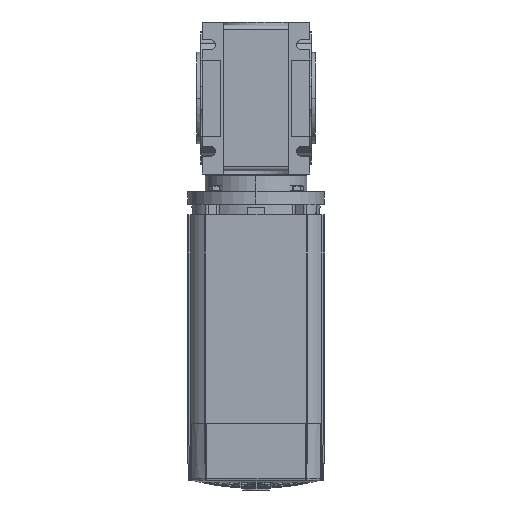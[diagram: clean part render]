
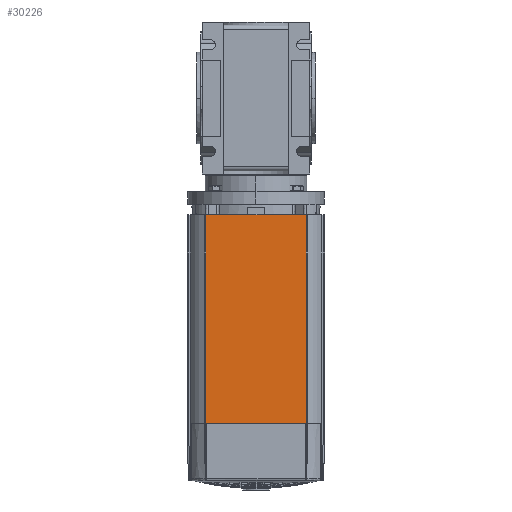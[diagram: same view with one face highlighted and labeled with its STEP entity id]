
A CAD part, front view. The second image highlights one B-rep face of the part: STEP entity #30226.
In plain terms, the highlighted planar face has unit normal (0, -1, 0).
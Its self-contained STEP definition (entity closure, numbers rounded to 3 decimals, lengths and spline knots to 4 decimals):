
#30164 = VERTEX_POINT ( 'NONE', #44474 ) ;
#30205 = ORIENTED_EDGE ( 'NONE', *, *, #30206, .T. ) ;
#30206 = EDGE_CURVE ( 'NONE', #30164, #30207, #44524, .T. ) ;
#30207 = VERTEX_POINT ( 'NONE', #44520 ) ;
#30208 = ORIENTED_EDGE ( 'NONE', *, *, #30209, .T. ) ;
#30209 = EDGE_CURVE ( 'NONE', #30207, #30230, #44519, .T. ) ;
#30221 = EDGE_CURVE ( 'NONE', #30222, #30164, #44556, .T. ) ;
#30222 = VERTEX_POINT ( 'NONE', #44552 ) ;
#30226 = ADVANCED_FACE ( 'NONE', ( #44551 ), #44606, .T. ) ;
#30227 = EDGE_LOOP ( 'NONE', ( #30228, #30231, #30205, #30208 ) ) ;
#30228 = ORIENTED_EDGE ( 'NONE', *, *, #30229, .F. ) ;
#30229 = EDGE_CURVE ( 'NONE', #30222, #30230, #44601, .T. ) ;
#30230 = VERTEX_POINT ( 'NONE', #44597 ) ;
#30231 = ORIENTED_EDGE ( 'NONE', *, *, #30221, .T. ) ;
#44474 = CARTESIAN_POINT ( 'NONE',  ( -1.3051, -1.7764, -1.291 ) ) ;
#44516 = DIRECTION ( 'NONE',  ( 0., 0., 1. ) ) ;
#44517 = VECTOR ( 'NONE', #44516, 39.3701 ) ;
#44518 = CARTESIAN_POINT ( 'NONE',  ( 1.3049, -1.7766, -1.291 ) ) ;
#44519 = LINE ( 'NONE', #44518, #44517 ) ;
#44520 = CARTESIAN_POINT ( 'NONE',  ( 1.3049, -1.7766, -1.291 ) ) ;
#44521 = DIRECTION ( 'NONE',  ( 1., 0., 0. ) ) ;
#44522 = VECTOR ( 'NONE', #44521, 39.3701 ) ;
#44523 = CARTESIAN_POINT ( 'NONE',  ( -1.3251, -1.7764, -1.291 ) ) ;
#44524 = LINE ( 'NONE', #44523, #44522 ) ;
#44551 = FACE_OUTER_BOUND ( 'NONE', #30227, .T. ) ;
#44552 = CARTESIAN_POINT ( 'NONE',  ( -1.3051, -1.7764, 4.104 ) ) ;
#44553 = DIRECTION ( 'NONE',  ( 0., 0., -1. ) ) ;
#44554 = VECTOR ( 'NONE', #44553, 39.3701 ) ;
#44555 = CARTESIAN_POINT ( 'NONE',  ( -1.3051, -1.7764, -1.291 ) ) ;
#44556 = LINE ( 'NONE', #44555, #44554 ) ;
#44597 = CARTESIAN_POINT ( 'NONE',  ( 1.3049, -1.7766, 4.104 ) ) ;
#44598 = DIRECTION ( 'NONE',  ( 1., 0., 0. ) ) ;
#44599 = VECTOR ( 'NONE', #44598, 39.3701 ) ;
#44600 = CARTESIAN_POINT ( 'NONE',  ( -1.3251, -1.7764, 4.104 ) ) ;
#44601 = LINE ( 'NONE', #44600, #44599 ) ;
#44602 = DIRECTION ( 'NONE',  ( 0., 0., -1. ) ) ;
#44603 = DIRECTION ( 'NONE',  ( 0., -1., 0. ) ) ;
#44604 = CARTESIAN_POINT ( 'NONE',  ( -1.3251, -1.7764, -1.291 ) ) ;
#44605 = AXIS2_PLACEMENT_3D ( 'NONE', #44604, #44603, #44602 ) ;
#44606 = PLANE ( 'NONE',  #44605 ) ;
